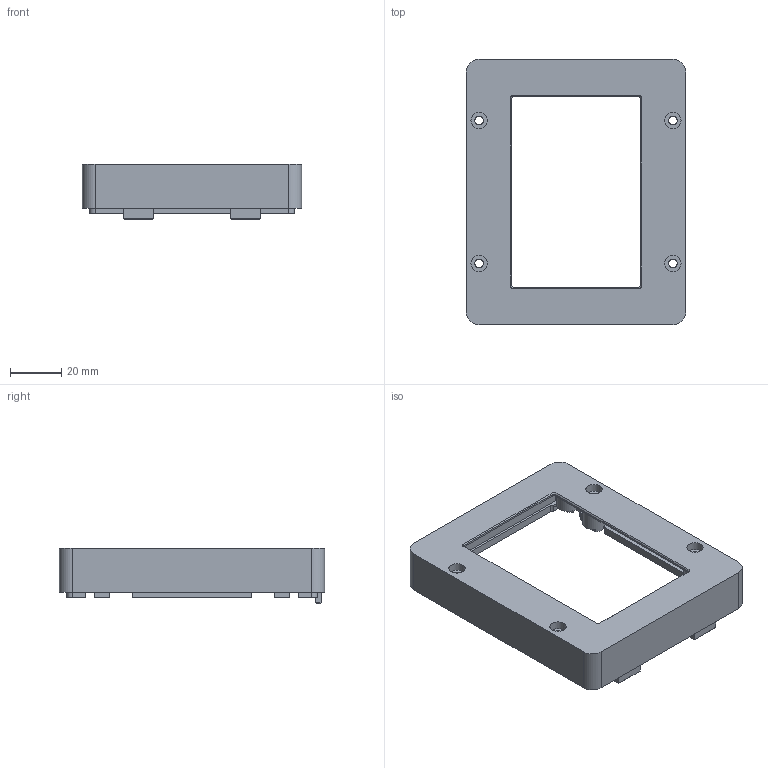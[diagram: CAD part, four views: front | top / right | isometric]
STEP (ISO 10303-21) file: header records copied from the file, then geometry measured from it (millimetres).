
FILE_DESCRIPTION(/* description */ (''),/* implementation_level */ '2;1');
FILE_NAME(/* name */ 'carrier-top.step',/* time_stamp */ '2026-09-15T10:15:48-07:00',/* author */ (''),/* organization */ (''),/* preprocessor_version */ 'ST-DEVELOPER v20.2',/* originating_system */ 'Autodesk Translation Framework v15.15.0.0',/* authorisation */ '');
FILE_SCHEMA (('AUTOMOTIVE_DESIGN { 1 0 10303 214 3 1 1 }'));
Length unit declared in the file: centimetre
Products named in the file (1): 02 Top bezel - fitted lip and 4.2mm pilots
Bounding box: 86 x 104 x 21.9 mm (x, y, z)
Volume: 31625 mm3; surface area: 27742.9 mm2
Topology: 1 solids, 1 shells, 185 faces, 494 edges, 325 vertices
Faces by surface type: plane 120, cylinder 64, bspline 1
Full cylindrical faces by diameter (mm): 3.4 x4, 4.2 x4, 6.4 x4, 9 x4
Entity records: 6095 total; most frequent: CARTESIAN_POINT 1261, DIRECTION 1023, ORIENTED_EDGE 988, EDGE_CURVE 494, AXIS2_PLACEMENT_3D 345, LINE 333, VECTOR 333, VERTEX_POINT 325
